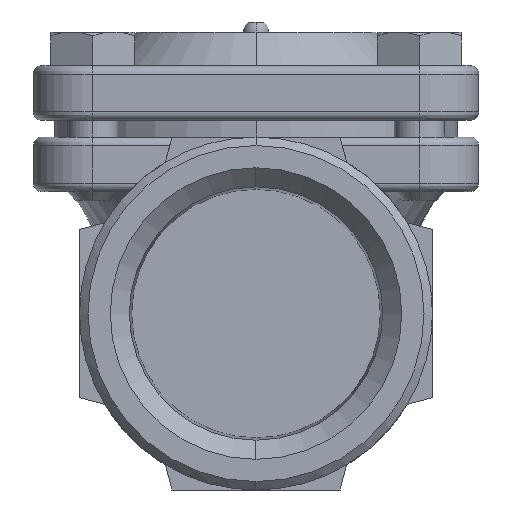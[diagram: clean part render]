
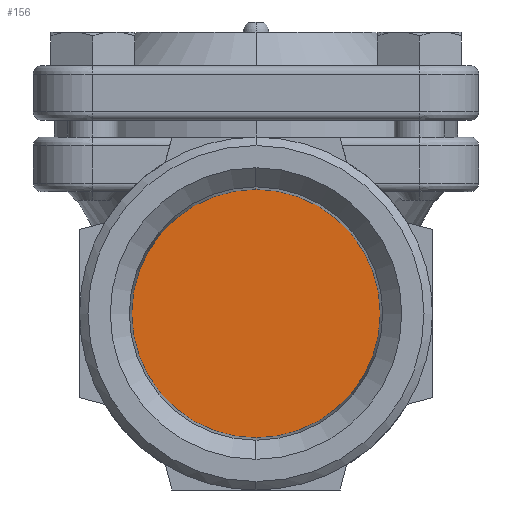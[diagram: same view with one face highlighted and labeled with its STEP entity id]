
A CAD part, left-side view. The second image highlights one B-rep face of the part: STEP entity #156.
In plain terms, the highlighted planar face has unit normal (-1, 0, 0).
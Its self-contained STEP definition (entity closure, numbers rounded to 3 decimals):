
#156=ADVANCED_FACE('',(#1454),#1453,.F.);
#1453=PLANE('',#3701);
#1454=FACE_OUTER_BOUND('',#3702,.T.);
#3698=CARTESIAN_POINT('',(-23.5,-35.334,22.1));
#3699=DIRECTION('',(1.,0.,0.));
#3700=DIRECTION('',(0.,0.,-1.));
#3701=AXIS2_PLACEMENT_3D('',#3698,#3699,#3700);
#3702=EDGE_LOOP('',(#5099,#5100));
#5099=ORIENTED_EDGE('',*,*,#5988,.T.);
#5100=ORIENTED_EDGE('',*,*,#5989,.T.);
#5988=EDGE_CURVE('',#8655,#8656,#8657,.T.);
#5989=EDGE_CURVE('',#8656,#8655,#8663,.T.);
#8655=VERTEX_POINT('',#11407);
#8656=VERTEX_POINT('',#11408);
#8657=CIRCLE('',#11412,17.);
#8663=CIRCLE('',#11416,17.);
#11407=CARTESIAN_POINT('',(-23.5,0.,17.));
#11408=CARTESIAN_POINT('',(-23.5,0.,-17.));
#11409=CARTESIAN_POINT('',(-23.5,0.,0.));
#11410=DIRECTION('',(-1.,0.,0.));
#11411=DIRECTION('',(0.,0.,1.));
#11412=AXIS2_PLACEMENT_3D('',#11409,#11410,#11411);
#11413=CARTESIAN_POINT('',(-23.5,0.,0.));
#11414=DIRECTION('',(-1.,0.,0.));
#11415=DIRECTION('',(0.,0.,1.));
#11416=AXIS2_PLACEMENT_3D('',#11413,#11414,#11415);
